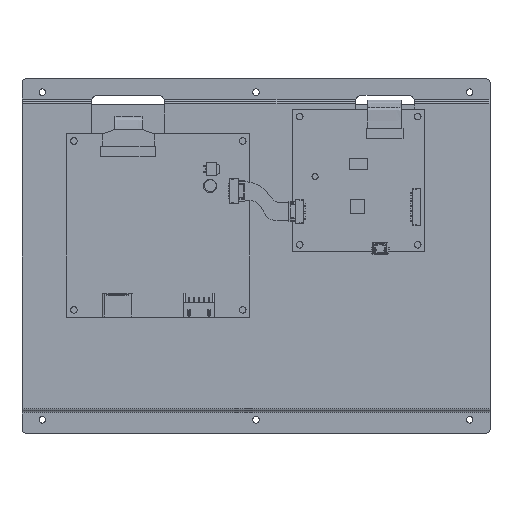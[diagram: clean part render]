
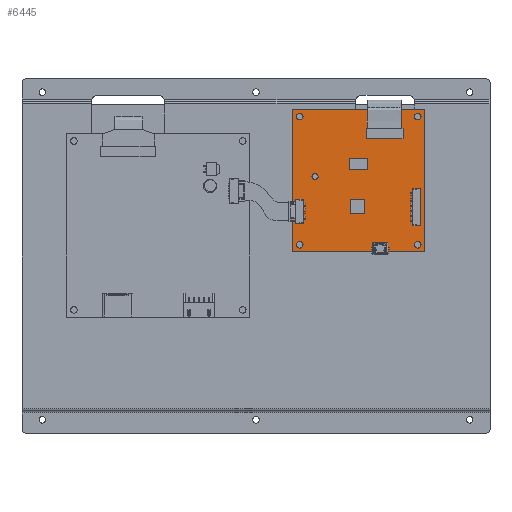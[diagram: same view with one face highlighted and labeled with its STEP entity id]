
A CAD part, front view. The second image highlights one B-rep face of the part: STEP entity #6445.
In plain terms, the highlighted planar face has unit normal (0, -1, 0).
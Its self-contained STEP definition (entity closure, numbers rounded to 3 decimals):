
#1615=DIRECTION('',(0.,0.,1.));
#1616=VECTOR('',#1615,70.);
#1617=CARTESIAN_POINT('',(83.,-15.3,2.));
#1618=LINE('',#1617,#1616);
#1619=DIRECTION('',(1.,0.,0.));
#1620=VECTOR('',#1619,65.);
#1621=CARTESIAN_POINT('',(18.,-15.3,2.));
#1622=LINE('',#1621,#1620);
#1623=DIRECTION('',(0.,0.,-1.));
#1624=VECTOR('',#1623,70.);
#1625=CARTESIAN_POINT('',(18.,-15.3,72.));
#1626=LINE('',#1625,#1624);
#1627=DIRECTION('',(-1.,0.,0.));
#1628=VECTOR('',#1627,65.);
#1629=CARTESIAN_POINT('',(83.,-15.3,72.));
#1630=LINE('',#1629,#1628);
#1647=CARTESIAN_POINT('',(79.5,-15.3,5.5));
#1648=DIRECTION('',(0.,-1.,0.));
#1649=DIRECTION('',(-1.,0.,0.));
#1650=AXIS2_PLACEMENT_3D('',#1647,#1648,#1649);
#1652=CARTESIAN_POINT('',(79.5,-15.3,5.5));
#1653=DIRECTION('',(0.,-1.,0.));
#1654=DIRECTION('',(1.,0.,0.));
#1655=AXIS2_PLACEMENT_3D('',#1652,#1653,#1654);
#1657=CARTESIAN_POINT('',(21.5,-15.3,5.5));
#1658=DIRECTION('',(0.,-1.,0.));
#1659=DIRECTION('',(-1.,0.,0.));
#1660=AXIS2_PLACEMENT_3D('',#1657,#1658,#1659);
#1662=CARTESIAN_POINT('',(21.5,-15.3,5.5));
#1663=DIRECTION('',(0.,-1.,0.));
#1664=DIRECTION('',(1.,0.,0.));
#1665=AXIS2_PLACEMENT_3D('',#1662,#1663,#1664);
#1667=CARTESIAN_POINT('',(21.5,-15.3,68.5));
#1668=DIRECTION('',(0.,-1.,0.));
#1669=DIRECTION('',(-1.,0.,0.));
#1670=AXIS2_PLACEMENT_3D('',#1667,#1668,#1669);
#1672=CARTESIAN_POINT('',(21.5,-15.3,68.5));
#1673=DIRECTION('',(0.,-1.,0.));
#1674=DIRECTION('',(1.,0.,0.));
#1675=AXIS2_PLACEMENT_3D('',#1672,#1673,#1674);
#1717=CARTESIAN_POINT('',(79.5,-15.3,68.5));
#1718=DIRECTION('',(0.,1.,0.));
#1719=DIRECTION('',(-1.,0.,0.));
#1720=AXIS2_PLACEMENT_3D('',#1717,#1718,#1719);
#1722=CARTESIAN_POINT('',(79.5,-15.3,68.5));
#1723=DIRECTION('',(0.,1.,0.));
#1724=DIRECTION('',(1.,0.,0.));
#1725=AXIS2_PLACEMENT_3D('',#1722,#1723,#1724);
#1727=DIRECTION('',(0.,0.,1.));
#1728=VECTOR('',#1727,5.2);
#1729=CARTESIAN_POINT('',(72.25,-15.3,57.5));
#1730=LINE('',#1729,#1728);
#1731=DIRECTION('',(-1.,0.,0.));
#1732=VECTOR('',#1731,18.);
#1733=CARTESIAN_POINT('',(72.25,-15.3,62.7));
#1734=LINE('',#1733,#1732);
#1735=DIRECTION('',(0.,0.,-1.));
#1736=VECTOR('',#1735,5.2);
#1737=CARTESIAN_POINT('',(54.25,-15.3,62.7));
#1738=LINE('',#1737,#1736);
#1739=DIRECTION('',(1.,0.,0.));
#1740=VECTOR('',#1739,18.);
#1741=CARTESIAN_POINT('',(54.25,-15.3,57.5));
#1742=LINE('',#1741,#1740);
#1839=CARTESIAN_POINT('',(29.,-15.3,39.));
#1840=DIRECTION('',(0.,-1.,0.));
#1841=DIRECTION('',(-1.,0.,0.));
#1842=AXIS2_PLACEMENT_3D('',#1839,#1840,#1841);
#1844=CARTESIAN_POINT('',(29.,-15.3,39.));
#1845=DIRECTION('',(0.,-1.,0.));
#1846=DIRECTION('',(1.,0.,0.));
#1847=AXIS2_PLACEMENT_3D('',#1844,#1845,#1846);
#1849=DIRECTION('',(0.,0.,1.));
#1850=VECTOR('',#1849,7.);
#1851=CARTESIAN_POINT('',(53.5,-15.3,21.));
#1852=LINE('',#1851,#1850);
#1853=DIRECTION('',(-1.,0.,0.));
#1854=VECTOR('',#1853,7.);
#1855=CARTESIAN_POINT('',(53.5,-15.3,28.));
#1856=LINE('',#1855,#1854);
#1857=DIRECTION('',(0.,0.,-1.));
#1858=VECTOR('',#1857,7.);
#1859=CARTESIAN_POINT('',(46.5,-15.3,28.));
#1860=LINE('',#1859,#1858);
#1861=DIRECTION('',(1.,0.,0.));
#1862=VECTOR('',#1861,7.);
#1863=CARTESIAN_POINT('',(46.5,-15.3,21.));
#1864=LINE('',#1863,#1862);
#1865=DIRECTION('',(0.,0.,1.));
#1866=VECTOR('',#1865,5.5);
#1867=CARTESIAN_POINT('',(55.,-15.3,42.5));
#1868=LINE('',#1867,#1866);
#1869=DIRECTION('',(-1.,0.,0.));
#1870=VECTOR('',#1869,9.);
#1871=CARTESIAN_POINT('',(55.,-15.3,48.));
#1872=LINE('',#1871,#1870);
#1873=DIRECTION('',(0.,0.,-1.));
#1874=VECTOR('',#1873,5.5);
#1875=CARTESIAN_POINT('',(46.,-15.3,48.));
#1876=LINE('',#1875,#1874);
#1877=DIRECTION('',(1.,0.,0.));
#1878=VECTOR('',#1877,9.);
#1879=CARTESIAN_POINT('',(46.,-15.3,42.5));
#1880=LINE('',#1879,#1878);
#3921=CARTESIAN_POINT('',(83.,-15.3,2.));
#3922=CARTESIAN_POINT('',(83.,-15.3,72.));
#3923=VERTEX_POINT('',#3921);
#3924=VERTEX_POINT('',#3922);
#3925=CARTESIAN_POINT('',(18.,-15.3,72.));
#3926=VERTEX_POINT('',#3925);
#3927=CARTESIAN_POINT('',(18.,-15.3,2.));
#3928=VERTEX_POINT('',#3927);
#4073=CARTESIAN_POINT('',(77.9,-15.3,5.5));
#4074=VERTEX_POINT('',#4073);
#4075=CARTESIAN_POINT('',(81.1,-15.3,5.5));
#4076=VERTEX_POINT('',#4075);
#4077=CARTESIAN_POINT('',(19.9,-15.3,5.5));
#4078=VERTEX_POINT('',#4077);
#4079=CARTESIAN_POINT('',(23.1,-15.3,5.5));
#4080=VERTEX_POINT('',#4079);
#4081=CARTESIAN_POINT('',(19.9,-15.3,68.5));
#4082=VERTEX_POINT('',#4081);
#4083=CARTESIAN_POINT('',(23.1,-15.3,68.5));
#4084=VERTEX_POINT('',#4083);
#4133=CARTESIAN_POINT('',(77.9,-15.3,68.5));
#4134=CARTESIAN_POINT('',(81.1,-15.3,68.5));
#4135=VERTEX_POINT('',#4133);
#4136=VERTEX_POINT('',#4134);
#4177=CARTESIAN_POINT('',(72.25,-15.3,57.5));
#4178=CARTESIAN_POINT('',(72.25,-15.3,62.7));
#4179=VERTEX_POINT('',#4177);
#4180=VERTEX_POINT('',#4178);
#4181=CARTESIAN_POINT('',(54.25,-15.3,62.7));
#4182=VERTEX_POINT('',#4181);
#4183=CARTESIAN_POINT('',(54.25,-15.3,57.5));
#4184=VERTEX_POINT('',#4183);
#4461=CARTESIAN_POINT('',(27.5,-15.3,39.));
#4462=CARTESIAN_POINT('',(30.5,-15.3,39.));
#4463=VERTEX_POINT('',#4461);
#4464=VERTEX_POINT('',#4462);
#4481=CARTESIAN_POINT('',(53.5,-15.3,21.));
#4482=CARTESIAN_POINT('',(53.5,-15.3,28.));
#4483=VERTEX_POINT('',#4481);
#4484=VERTEX_POINT('',#4482);
#4485=CARTESIAN_POINT('',(46.5,-15.3,28.));
#4486=VERTEX_POINT('',#4485);
#4487=CARTESIAN_POINT('',(46.5,-15.3,21.));
#4488=VERTEX_POINT('',#4487);
#4489=CARTESIAN_POINT('',(55.,-15.3,42.5));
#4490=CARTESIAN_POINT('',(55.,-15.3,48.));
#4491=VERTEX_POINT('',#4489);
#4492=VERTEX_POINT('',#4490);
#4493=CARTESIAN_POINT('',(46.,-15.3,48.));
#4494=VERTEX_POINT('',#4493);
#4495=CARTESIAN_POINT('',(46.,-15.3,42.5));
#4496=VERTEX_POINT('',#4495);
#6374=CARTESIAN_POINT('',(-115.,-15.3,0.));
#6375=DIRECTION('',(0.,-1.,0.));
#6376=DIRECTION('',(-1.,0.,0.));
#6377=AXIS2_PLACEMENT_3D('',#6374,#6375,#6376);
#6378=PLANE('',#6377);
#6379=ORIENTED_EDGE('',*,*,#6326,.F.);
#6380=ORIENTED_EDGE('',*,*,#6341,.F.);
#6381=ORIENTED_EDGE('',*,*,#6355,.F.);
#6382=ORIENTED_EDGE('',*,*,#6368,.F.);
#6383=EDGE_LOOP('',(#6379,#6380,#6381,#6382));
#6384=FACE_OUTER_BOUND('',#6383,.F.);
#6386=ORIENTED_EDGE('',*,*,#6385,.T.);
#6388=ORIENTED_EDGE('',*,*,#6387,.T.);
#6389=EDGE_LOOP('',(#6386,#6388));
#6390=FACE_BOUND('',#6389,.F.);
#6392=ORIENTED_EDGE('',*,*,#6391,.T.);
#6394=ORIENTED_EDGE('',*,*,#6393,.T.);
#6395=EDGE_LOOP('',(#6392,#6394));
#6396=FACE_BOUND('',#6395,.F.);
#6398=ORIENTED_EDGE('',*,*,#6397,.T.);
#6400=ORIENTED_EDGE('',*,*,#6399,.T.);
#6401=EDGE_LOOP('',(#6398,#6400));
#6402=FACE_BOUND('',#6401,.F.);
#6404=ORIENTED_EDGE('',*,*,#6403,.F.);
#6406=ORIENTED_EDGE('',*,*,#6405,.F.);
#6407=EDGE_LOOP('',(#6404,#6406));
#6408=FACE_BOUND('',#6407,.F.);
#6410=ORIENTED_EDGE('',*,*,#6409,.T.);
#6412=ORIENTED_EDGE('',*,*,#6411,.T.);
#6414=ORIENTED_EDGE('',*,*,#6413,.T.);
#6416=ORIENTED_EDGE('',*,*,#6415,.T.);
#6417=EDGE_LOOP('',(#6410,#6412,#6414,#6416));
#6418=FACE_BOUND('',#6417,.F.);
#6420=ORIENTED_EDGE('',*,*,#6419,.T.);
#6422=ORIENTED_EDGE('',*,*,#6421,.T.);
#6423=EDGE_LOOP('',(#6420,#6422));
#6424=FACE_BOUND('',#6423,.F.);
#6426=ORIENTED_EDGE('',*,*,#6425,.T.);
#6428=ORIENTED_EDGE('',*,*,#6427,.T.);
#6430=ORIENTED_EDGE('',*,*,#6429,.T.);
#6432=ORIENTED_EDGE('',*,*,#6431,.T.);
#6433=EDGE_LOOP('',(#6426,#6428,#6430,#6432));
#6434=FACE_BOUND('',#6433,.F.);
#6436=ORIENTED_EDGE('',*,*,#6435,.T.);
#6438=ORIENTED_EDGE('',*,*,#6437,.T.);
#6440=ORIENTED_EDGE('',*,*,#6439,.T.);
#6442=ORIENTED_EDGE('',*,*,#6441,.T.);
#6443=EDGE_LOOP('',(#6436,#6438,#6440,#6442));
#6444=FACE_BOUND('',#6443,.F.);
#1651=CIRCLE('',#1650,1.6);
#1656=CIRCLE('',#1655,1.6);
#1661=CIRCLE('',#1660,1.6);
#1666=CIRCLE('',#1665,1.6);
#1671=CIRCLE('',#1670,1.6);
#1676=CIRCLE('',#1675,1.6);
#1721=CIRCLE('',#1720,1.6);
#1726=CIRCLE('',#1725,1.6);
#1843=CIRCLE('',#1842,1.5);
#1848=CIRCLE('',#1847,1.5);
#6326=EDGE_CURVE('',#3923,#3924,#1618,.T.);
#6341=EDGE_CURVE('',#3928,#3923,#1622,.T.);
#6355=EDGE_CURVE('',#3926,#3928,#1626,.T.);
#6368=EDGE_CURVE('',#3924,#3926,#1630,.T.);
#6385=EDGE_CURVE('',#4074,#4076,#1651,.T.);
#6387=EDGE_CURVE('',#4076,#4074,#1656,.T.);
#6391=EDGE_CURVE('',#4078,#4080,#1661,.T.);
#6393=EDGE_CURVE('',#4080,#4078,#1666,.T.);
#6397=EDGE_CURVE('',#4082,#4084,#1671,.T.);
#6399=EDGE_CURVE('',#4084,#4082,#1676,.T.);
#6403=EDGE_CURVE('',#4135,#4136,#1721,.T.);
#6405=EDGE_CURVE('',#4136,#4135,#1726,.T.);
#6409=EDGE_CURVE('',#4179,#4180,#1730,.T.);
#6411=EDGE_CURVE('',#4180,#4182,#1734,.T.);
#6413=EDGE_CURVE('',#4182,#4184,#1738,.T.);
#6415=EDGE_CURVE('',#4184,#4179,#1742,.T.);
#6419=EDGE_CURVE('',#4463,#4464,#1843,.T.);
#6421=EDGE_CURVE('',#4464,#4463,#1848,.T.);
#6425=EDGE_CURVE('',#4483,#4484,#1852,.T.);
#6427=EDGE_CURVE('',#4484,#4486,#1856,.T.);
#6429=EDGE_CURVE('',#4486,#4488,#1860,.T.);
#6431=EDGE_CURVE('',#4488,#4483,#1864,.T.);
#6435=EDGE_CURVE('',#4491,#4492,#1868,.T.);
#6437=EDGE_CURVE('',#4492,#4494,#1872,.T.);
#6439=EDGE_CURVE('',#4494,#4496,#1876,.T.);
#6441=EDGE_CURVE('',#4496,#4491,#1880,.T.);
#6445=ADVANCED_FACE('',(#6384,#6390,#6396,#6402,#6408,#6418,#6424,#6434,#6444),
#6378,.T.);
